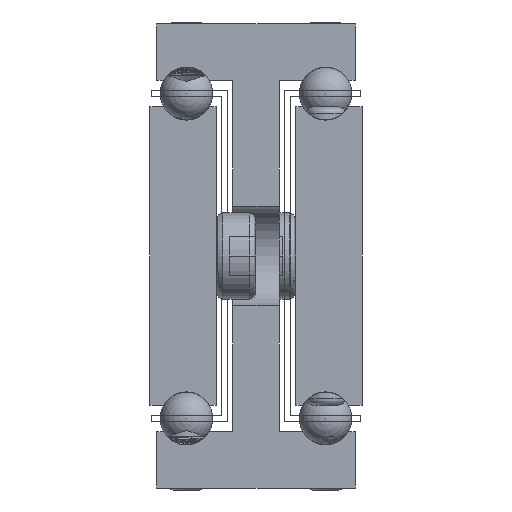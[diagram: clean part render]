
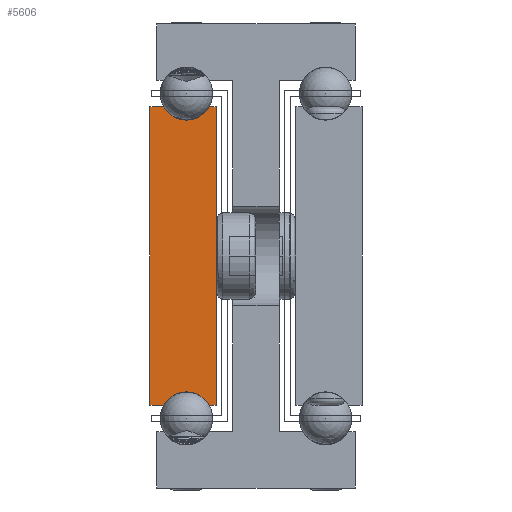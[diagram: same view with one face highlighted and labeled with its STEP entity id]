
A CAD part, front view. The second image highlights one B-rep face of the part: STEP entity #5606.
In plain terms, the highlighted planar face has unit normal (0, -1, 0).
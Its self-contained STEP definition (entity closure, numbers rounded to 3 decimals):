
#733=CIRCLE('',#5975,4.);
#735=CIRCLE('',#5978,4.);
#1194=FACE_OUTER_BOUND('',#1530,.T.);
#1530=EDGE_LOOP('',(#4720,#4721,#4722,#4723,#4724,#4725,#4726,#4727));
#2048=LINE('',#12105,#2344);
#2049=LINE('',#12107,#2345);
#2050=LINE('',#12109,#2346);
#2051=LINE('',#12110,#2347);
#2052=LINE('',#12112,#2348);
#2053=LINE('',#12113,#2349);
#2344=VECTOR('',#6932,1.);
#2345=VECTOR('',#6933,1.);
#2346=VECTOR('',#6934,1.);
#2347=VECTOR('',#6935,1.);
#2348=VECTOR('',#6936,1.);
#2349=VECTOR('',#6937,1.);
#2722=VERTEX_POINT('',#11860);
#2724=VERTEX_POINT('',#11864);
#2730=VERTEX_POINT('',#11957);
#2732=VERTEX_POINT('',#11961);
#2757=VERTEX_POINT('',#12104);
#2758=VERTEX_POINT('',#12106);
#2759=VERTEX_POINT('',#12108);
#2760=VERTEX_POINT('',#12111);
#3509=EDGE_CURVE('',#2722,#2724,#733,.T.);
#3517=EDGE_CURVE('',#2730,#2732,#735,.T.);
#3544=EDGE_CURVE('',#2757,#2722,#2048,.T.);
#3545=EDGE_CURVE('',#2724,#2758,#2049,.T.);
#3546=EDGE_CURVE('',#2758,#2759,#2050,.T.);
#3547=EDGE_CURVE('',#2759,#2730,#2051,.T.);
#3548=EDGE_CURVE('',#2732,#2760,#2052,.T.);
#3549=EDGE_CURVE('',#2760,#2757,#2053,.T.);
#4720=ORIENTED_EDGE('',*,*,#3544,.T.);
#4721=ORIENTED_EDGE('',*,*,#3509,.T.);
#4722=ORIENTED_EDGE('',*,*,#3545,.T.);
#4723=ORIENTED_EDGE('',*,*,#3546,.T.);
#4724=ORIENTED_EDGE('',*,*,#3547,.T.);
#4725=ORIENTED_EDGE('',*,*,#3517,.T.);
#4726=ORIENTED_EDGE('',*,*,#3548,.T.);
#4727=ORIENTED_EDGE('',*,*,#3549,.T.);
#5395=PLANE('',#6004);
#5606=ADVANCED_FACE('',(#1194),#5395,.T.);
#5975=AXIS2_PLACEMENT_3D('',#11866,#6864,#6865);
#5978=AXIS2_PLACEMENT_3D('',#11963,#6872,#6873);
#6004=AXIS2_PLACEMENT_3D('',#12103,#6930,#6931);
#6864=DIRECTION('center_axis',(0.,1.,0.));
#6865=DIRECTION('ref_axis',(0.866,0.,-0.5));
#6872=DIRECTION('center_axis',(0.,1.,0.));
#6873=DIRECTION('ref_axis',(-0.866,0.,0.5));
#6930=DIRECTION('center_axis',(0.,-1.,0.));
#6931=DIRECTION('ref_axis',(1.,0.,0.));
#6932=DIRECTION('',(-1.,0.,0.));
#6933=DIRECTION('',(-1.,0.,0.));
#6934=DIRECTION('',(0.,0.,-1.));
#6935=DIRECTION('',(1.,0.,0.));
#6936=DIRECTION('',(1.,0.,0.));
#6937=DIRECTION('',(0.,0.,1.));
#11860=CARTESIAN_POINT('',(-712.235,-944.76,122.8));
#11864=CARTESIAN_POINT('',(-719.164,-944.76,122.8));
#11866=CARTESIAN_POINT('Origin',(-715.699,-944.76,124.8));
#11957=CARTESIAN_POINT('',(-719.164,-944.76,77.8));
#11961=CARTESIAN_POINT('',(-712.235,-944.76,77.8));
#11963=CARTESIAN_POINT('Origin',(-715.699,-944.76,75.8));
#12103=CARTESIAN_POINT('Origin',(-716.205,-944.76,100.3));
#12104=CARTESIAN_POINT('',(-711.199,-944.76,122.8));
#12105=CARTESIAN_POINT('',(-711.199,-944.76,122.8));
#12106=CARTESIAN_POINT('',(-721.199,-944.76,122.8));
#12107=CARTESIAN_POINT('',(-719.164,-944.76,122.8));
#12108=CARTESIAN_POINT('',(-721.199,-944.76,77.8));
#12109=CARTESIAN_POINT('',(-721.199,-944.76,122.8));
#12110=CARTESIAN_POINT('',(-721.199,-944.76,77.8));
#12111=CARTESIAN_POINT('',(-711.199,-944.76,77.8));
#12112=CARTESIAN_POINT('',(-712.235,-944.76,77.8));
#12113=CARTESIAN_POINT('',(-711.199,-944.76,77.8));
